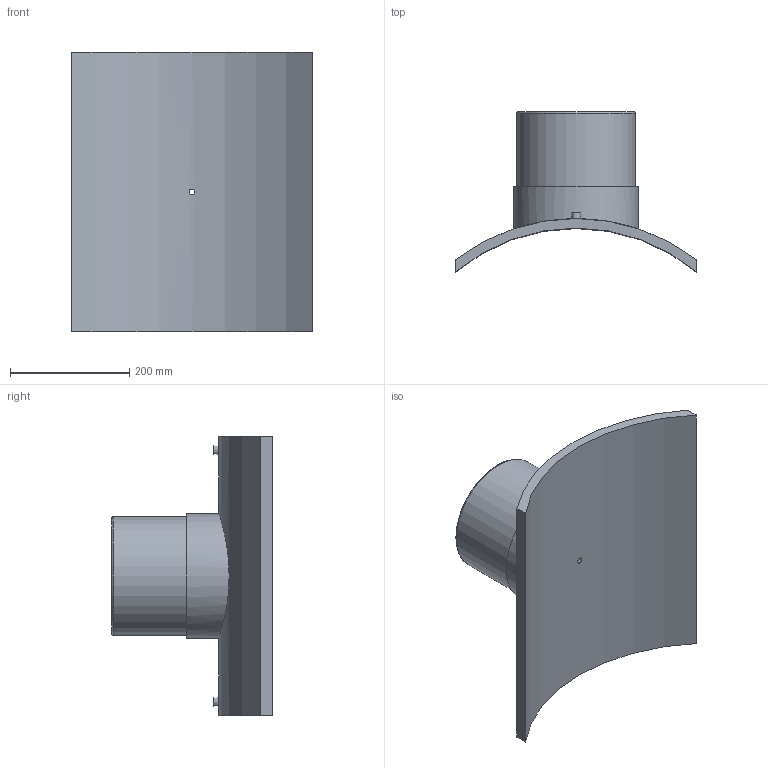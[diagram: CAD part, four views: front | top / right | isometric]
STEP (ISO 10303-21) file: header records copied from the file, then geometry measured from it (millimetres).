
FILE_DESCRIPTION(/* description */ ('PLASSON BRANCH SADDLE 630x200'),/* implementation_level */ '2;1');
FILE_NAME(/* name */ 'C:\Dropbox\KIMPROJECTS-Inventor 2019\99-16-3568-Processing\ElectroFusion Fittings\495803\stp\495803630200T.stp',/* time_stamp */ '2024-04-04T11:53:26+02:00',/* author */ ('KIM'),/* organization */ (''),/* preprocessor_version */ 'ST-DEVELOPER v17.2',/* originating_system */ 'Autodesk Inventor 2019',/* authorisation */ '');
FILE_SCHEMA (('AUTOMOTIVE_DESIGN { 1 0 10303 214 3 1 1 }'));
Length unit declared in the file: millimetre
Products named in the file (1): 495803630200T
Bounding box: 405 x 269.71 x 470 mm (x, y, z)
Volume: 5608240.1 mm3; surface area: 665949.7 mm2
Topology: 1 solids, 1 shells, 29 faces, 60 edges, 43 vertices
Faces by surface type: plane 13, cylinder 12, torus 2, cone 2
Full cylindrical faces by diameter (mm): 4 x2, 9.6 x1, 10 x2, 16 x1, 160 x1, 200 x1, 210 x1
Entity records: 1086 total; most frequent: CARTESIAN_POINT 400, DIRECTION 139, ORIENTED_EDGE 120, EDGE_CURVE 60, AXIS2_PLACEMENT_3D 60, VERTEX_POINT 43, EDGE_LOOP 41, CIRCLE 30
